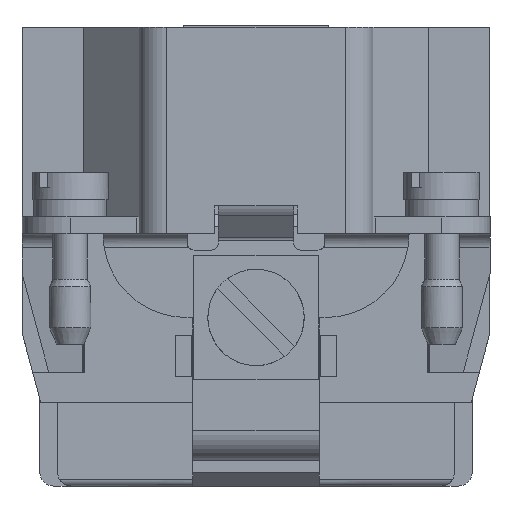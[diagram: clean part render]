
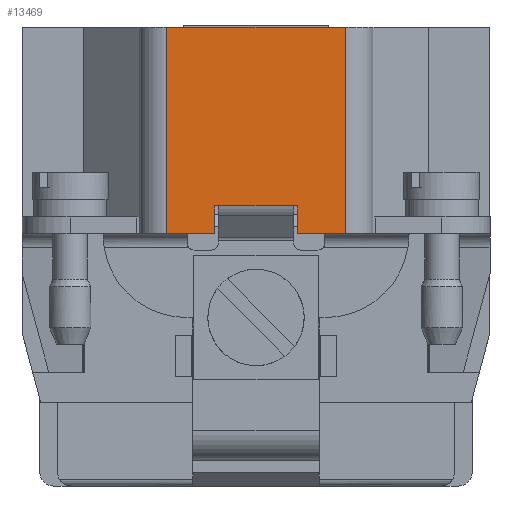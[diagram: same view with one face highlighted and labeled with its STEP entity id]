
A CAD part, left-side view. The second image highlights one B-rep face of the part: STEP entity #13469.
In plain terms, the highlighted planar face has unit normal (-1, 0, 0).
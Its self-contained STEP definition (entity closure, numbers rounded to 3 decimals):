
#13469=ADVANCED_FACE('',(#15616),#14555,.F.);
#14555=PLANE('',#36738);
#15616=FACE_OUTER_BOUND('',#16984,.T.);
#16984=EDGE_LOOP('',(#22736,#22737,#22738,#22739,#22740,#22741,#22742,#22743));
#22736=ORIENTED_EDGE('',*,*,#29947,.F.);
#22737=ORIENTED_EDGE('',*,*,#29944,.F.);
#22738=ORIENTED_EDGE('',*,*,#29948,.F.);
#22739=ORIENTED_EDGE('',*,*,#29606,.F.);
#22740=ORIENTED_EDGE('',*,*,#29949,.T.);
#22741=ORIENTED_EDGE('',*,*,#29950,.F.);
#22742=ORIENTED_EDGE('',*,*,#29951,.F.);
#22743=ORIENTED_EDGE('',*,*,#29952,.F.);
#26472=VERTEX_POINT('',#51498);
#26473=VERTEX_POINT('',#51500);
#26696=VERTEX_POINT('',#52426);
#26700=VERTEX_POINT('',#52434);
#26702=VERTEX_POINT('',#52439);
#26703=VERTEX_POINT('',#52445);
#26704=VERTEX_POINT('',#52447);
#26705=VERTEX_POINT('',#52449);
#29606=EDGE_CURVE('',#26472,#26473,#32339,.T.);
#29944=EDGE_CURVE('',#26700,#26696,#32569,.T.);
#29947=EDGE_CURVE('',#26696,#26702,#32572,.T.);
#29948=EDGE_CURVE('',#26473,#26700,#32573,.T.);
#29949=EDGE_CURVE('',#26472,#26703,#32574,.T.);
#29950=EDGE_CURVE('',#26704,#26703,#32575,.T.);
#29951=EDGE_CURVE('',#26705,#26704,#32576,.T.);
#29952=EDGE_CURVE('',#26702,#26705,#32577,.T.);
#32339=LINE('',#51499,#34614);
#32569=LINE('',#52435,#34844);
#32572=LINE('',#52441,#34847);
#32573=LINE('',#52443,#34848);
#32574=LINE('',#52444,#34849);
#32575=LINE('',#52446,#34850);
#32576=LINE('',#52448,#34851);
#32577=LINE('',#52450,#34852);
#34614=VECTOR('',#41802,1.);
#34844=VECTOR('',#42400,1.);
#34847=VECTOR('',#42405,1.);
#34848=VECTOR('',#42408,1.);
#34849=VECTOR('',#42409,1.);
#34850=VECTOR('',#42410,1.);
#34851=VECTOR('',#42411,1.);
#34852=VECTOR('',#42412,1.);
#36738=AXIS2_PLACEMENT_3D('',#52451,#42413,#42414);
#41802=DIRECTION('',(0.,-1.,0.));
#42400=DIRECTION('',(0.,1.,0.));
#42405=DIRECTION('',(0.,0.,1.));
#42408=DIRECTION('',(0.,0.,-1.));
#42409=DIRECTION('',(0.,0.,-1.));
#42410=DIRECTION('',(0.,1.,0.));
#42411=DIRECTION('',(0.,0.,-1.));
#42412=DIRECTION('',(0.,1.,0.));
#42413=DIRECTION('',(1.,0.,0.));
#42414=DIRECTION('',(0.,1.,0.));
#51498=CARTESIAN_POINT('',(-32.,6.5,15.));
#51499=CARTESIAN_POINT('',(-32.,6.5,15.));
#51500=CARTESIAN_POINT('',(-32.,-6.5,15.));
#52426=CARTESIAN_POINT('',(-32.,-3.,0.));
#52434=CARTESIAN_POINT('',(-32.,-6.5,0.));
#52435=CARTESIAN_POINT('',(-32.,-6.5,0.));
#52439=CARTESIAN_POINT('',(-32.,-3.,2.));
#52441=CARTESIAN_POINT('',(-32.,-3.,0.));
#52443=CARTESIAN_POINT('',(-32.,-6.5,15.));
#52444=CARTESIAN_POINT('',(-32.,6.5,15.));
#52445=CARTESIAN_POINT('',(-32.,6.5,0.));
#52446=CARTESIAN_POINT('',(-32.,3.,0.));
#52447=CARTESIAN_POINT('',(-32.,3.,0.));
#52448=CARTESIAN_POINT('',(-32.,3.,2.));
#52449=CARTESIAN_POINT('',(-32.,3.,2.));
#52450=CARTESIAN_POINT('',(-32.,-3.,2.));
#52451=CARTESIAN_POINT('',(-32.,6.5,15.));
